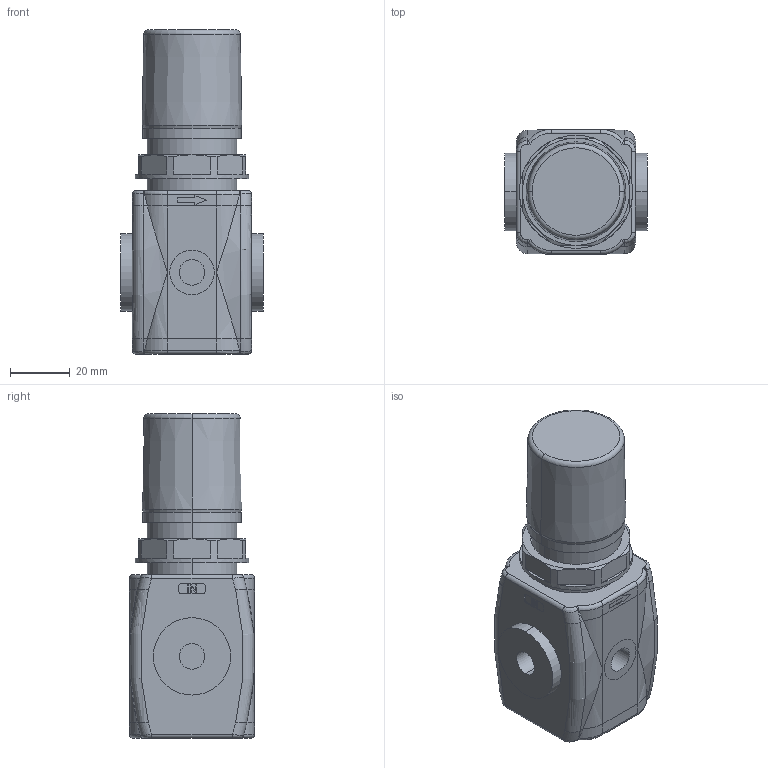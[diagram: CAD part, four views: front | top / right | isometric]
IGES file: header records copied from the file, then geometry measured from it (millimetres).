
Global section: file name: No Iges File Name specified; native system: Autodesk Inventor 2010; preprocessor: AutoDesk Inventor Iges Exporter R2010; author: valotma1; date: 20100823.141837; units: millimetre
Bounding box: 48 x 42 x 109 mm (x, y, z)
Volume: 137712.8 mm3; surface area: 23186.6 mm2
Topology: 2 solids, 2 shells, 311 faces, 742 edges, 472 vertices
Faces by surface type: plane 130, bspline 63, cylinder 54, revolution 32, torus 22, cone 10
